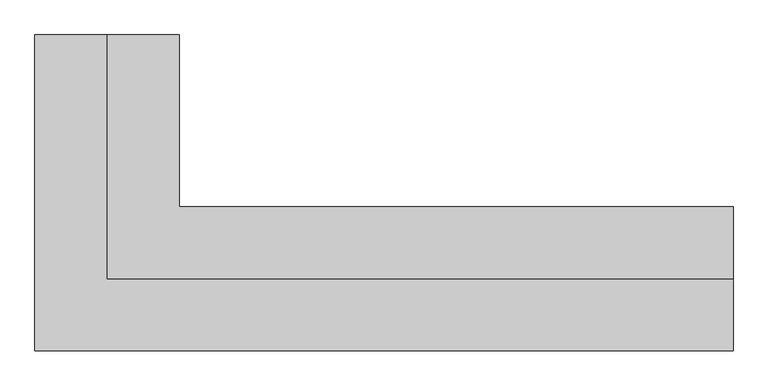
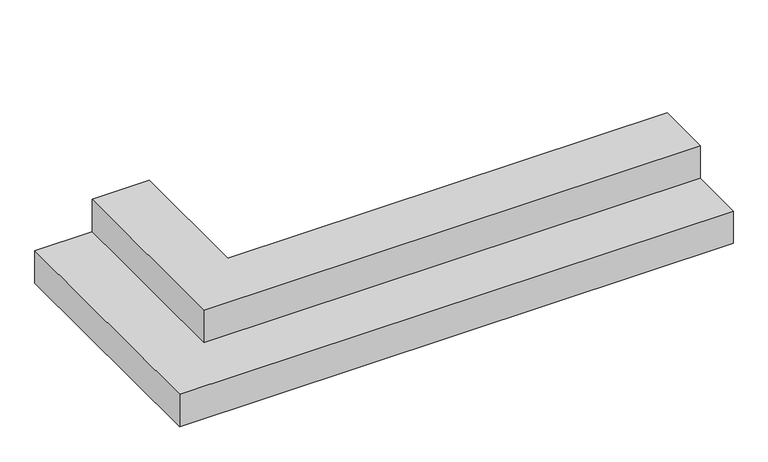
"""IFC4 building model written with IfcOpenShell, lengths in millimetres: proxy geometry, 台阶 : 台阶."""

from ifc_helpers import new_model, si_unit, origin, place, context, project, spatial, faceted_brep, source, transform, mapped, element, save


def generic_models_7f620453(model_context):
    return source(origin(), model_context, "Body", "Brep", [
        faceted_brep([(-1424.0293904, 1988.7732284, -300.0), (-1174.0293904, 1988.7732284, -300.0), (-1174.0293904, 1988.7732284, -150.0), (-924.0293904, 1988.7732284, -150.0), (-924.0293904, 1988.7732284, -450.0), (-1424.0293904, 1988.7732284, -450.0), (-1424.0293904, 893.7732284, -300.0), (995.9706096, 893.7732284, -300.0), (995.9706096, 1143.7732284, -300.0), (-1174.0293904, 1143.7732284, -300.0), (-1174.0293904, 1143.7732284, -150.0), (995.9706096, 1143.7732284, -150.0), (995.9706096, 1393.7732284, -150.0), (-924.0293904, 1393.7732284, -150.0), (-924.0293904, 1393.7732284, -450.0), (995.9706096, 1393.7732284, -450.0), (995.9706096, 893.7732284, -450.0), (-1424.0293904, 893.7732284, -450.0)], [[[0, 1, 2, 3, 4, 5]], [[1, 0, 6, 7, 8, 9]], [[2, 1, 9, 10]], [[3, 2, 10, 11, 12, 13]], [[4, 3, 13, 14]], [[5, 4, 14, 15, 16, 17]], [[0, 5, 17, 6]], [[7, 16, 15, 12, 11, 8]], [[10, 9, 8, 11]], [[14, 13, 12, 15]], [[6, 17, 16, 7]]]),
    ])


if __name__ == "__main__":
    model = new_model("IFC4")
    model_context = context("Model", 3, world=origin())
    ifc_project = project(units=[si_unit("LENGTHUNIT", "METRE", prefix="MILLI")], contexts=[model_context])
    site = spatial("IfcSite", under=ifc_project)
    building = spatial("IfcBuilding", under=site)
    placement = place(None, origin())
    generic_models_shape = generic_models_7f620453(model_context)
    element("IfcBuildingElementProxy", 1, Name="台阶 : 台阶", ObjectType="台阶 : 台阶", at=placement, inside=building, context=model_context, shape_type="MappedRepresentation", body=[
        mapped(generic_models_shape, transform((0.0, 0.0, 0.0), x_axis=(1.0, 0.0, 0.0), y_axis=(0.0, 1.0, 0.0), z_axis=(0.0, 0.0, 1.0))),
    ])
    save(model, "model.ifc")
